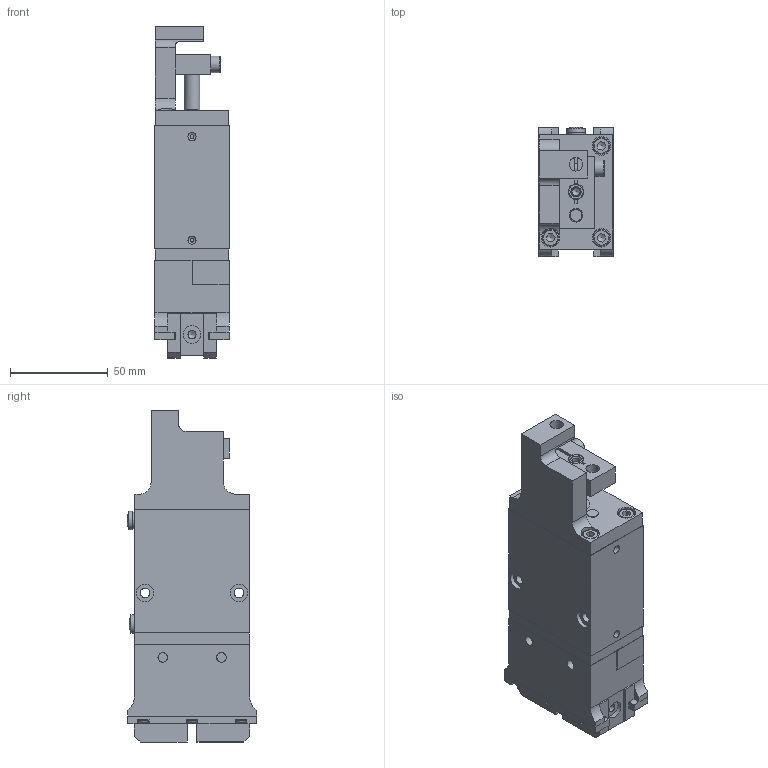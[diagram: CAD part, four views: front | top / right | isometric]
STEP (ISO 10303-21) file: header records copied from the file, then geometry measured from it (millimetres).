
FILE_DESCRIPTION((''),'2;1');
FILE_NAME('C:\Dokumente und Einstellungen\is\Desktop\Korrigieren\stp\3000017.stp','2011-05-24T12:08:23',('is'),(''),'Autodesk Inventor 2009','Autodesk Inventor 2009','');
FILE_SCHEMA(('AUTOMOTIVE_DESIGN { 1 0 10303 214 1 1 1 1 }'));
Length unit declared in the file: millimetre
Products named in the file (1): 3000017
Bounding box: 38 x 66.09 x 169.75 mm (x, y, z)
Volume: 252321.1 mm3; surface area: 79409 mm2
Topology: 1 solids, 46 shells, 731 faces, 1762 edges, 1138 vertices
Faces by surface type: plane 407, bspline 139, cylinder 107, cone 61, torus 15, sphere 2
Full cylindrical faces by diameter (mm): 3 x6, 4 x4, 5 x11, 5.7 x6, 6 x3, 7 x1, 8 x5, 8.2 x1, 8.3 x1, 8.5 x4, 9.5 x3, 10 x6, 12 x3, 12.2 x2, 13 x1, 22 x2, 24.5 x2, 28.5 x2, 31.85 x2, 32 x3, 33 x1, 35.6 x1
Entity records: 25944 total; most frequent: CARTESIAN_POINT 10376, DIRECTION 2913, ORIENTED_EDGE 2710, EDGE_CURVE 1355, EDGE_LOOP 1114, AXIS2_PLACEMENT_3D 1076, VERTEX_POINT 999, VECTOR 761
